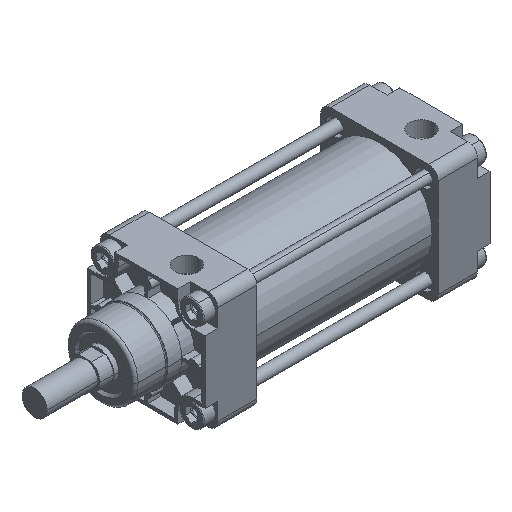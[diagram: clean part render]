
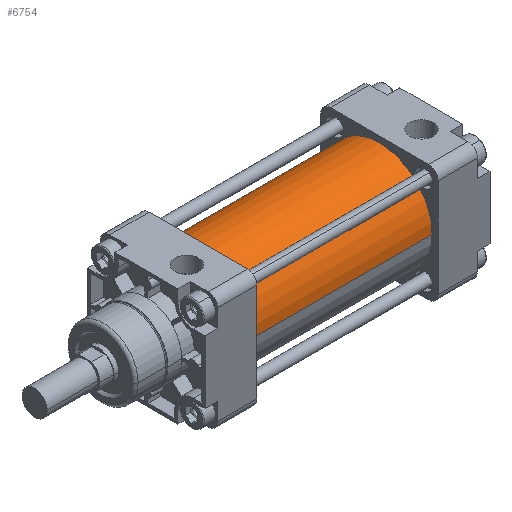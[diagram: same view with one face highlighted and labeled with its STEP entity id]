
A CAD part, isometric view. The second image highlights one B-rep face of the part: STEP entity #6754.
In plain terms, the highlighted cylindrical face has radius 33.5 mm (diameter 67 mm), a partial arc.
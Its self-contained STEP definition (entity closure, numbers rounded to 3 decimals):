
#6391=CARTESIAN_POINT('Vertex',(115.,-33.5,0.)) ;
#6393=CARTESIAN_POINT('Vertex',(115.,33.5,0.)) ;
#6396=CARTESIAN_POINT('Axis2P3D Location',(115.,0.,0.)) ;
#6724=CARTESIAN_POINT('Axis2P3D Location',(57.5,0.,0.)) ;
#6729=CARTESIAN_POINT('Line Origine',(57.5,33.5,0.)) ;
#6733=CARTESIAN_POINT('Vertex',(0.,33.5,0.)) ;
#6736=CARTESIAN_POINT('Axis2P3D Location',(0.,0.,0.)) ;
#6740=CARTESIAN_POINT('Vertex',(0.,-33.5,0.)) ;
#6743=CARTESIAN_POINT('Line Origine',(57.5,-33.5,0.)) ;
#6397=DIRECTION('Axis2P3D Direction',(1.,0.,0.)) ;
#6725=DIRECTION('Axis2P3D Direction',(1.,0.,0.)) ;
#6726=DIRECTION('Axis2P3D XDirection',(0.,1.,0.)) ;
#6730=DIRECTION('Vector Direction',(1.,0.,0.)) ;
#6737=DIRECTION('Axis2P3D Direction',(1.,0.,0.)) ;
#6744=DIRECTION('Vector Direction',(1.,0.,0.)) ;
#6398=AXIS2_PLACEMENT_3D('Circle Axis2P3D',#6396,#6397,$) ;
#6727=AXIS2_PLACEMENT_3D('Cylinder Axis2P3D',#6724,#6725,#6726) ;
#6738=AXIS2_PLACEMENT_3D('Circle Axis2P3D',#6736,#6737,$) ;
#6749=ORIENTED_EDGE('',*,*,#6735,.F.) ;
#6750=ORIENTED_EDGE('',*,*,#6742,.T.) ;
#6751=ORIENTED_EDGE('',*,*,#6747,.T.) ;
#6752=ORIENTED_EDGE('',*,*,#6400,.F.) ;
#6731=VECTOR('Line Direction',#6730,1.) ;
#6745=VECTOR('Line Direction',#6744,1.) ;
#6754=ADVANCED_FACE('PartBody',(#6753),#6728,.T.) ;
#6399=CIRCLE('generated circle',#6398,33.5) ;
#6739=CIRCLE('generated circle',#6738,33.5) ;
#6728=CYLINDRICAL_SURFACE('generated cylinder',#6727,33.5) ;
#6400=EDGE_CURVE('',#6394,#6392,#6399,.T.) ;
#6735=EDGE_CURVE('',#6734,#6394,#6732,.T.) ;
#6742=EDGE_CURVE('',#6734,#6741,#6739,.T.) ;
#6747=EDGE_CURVE('',#6741,#6392,#6746,.T.) ;
#6748=EDGE_LOOP('',(#6749,#6750,#6751,#6752)) ;
#6753=FACE_OUTER_BOUND('',#6748,.T.) ;
#6732=LINE('Line',#6729,#6731) ;
#6746=LINE('Line',#6743,#6745) ;
#6392=VERTEX_POINT('',#6391) ;
#6394=VERTEX_POINT('',#6393) ;
#6734=VERTEX_POINT('',#6733) ;
#6741=VERTEX_POINT('',#6740) ;
